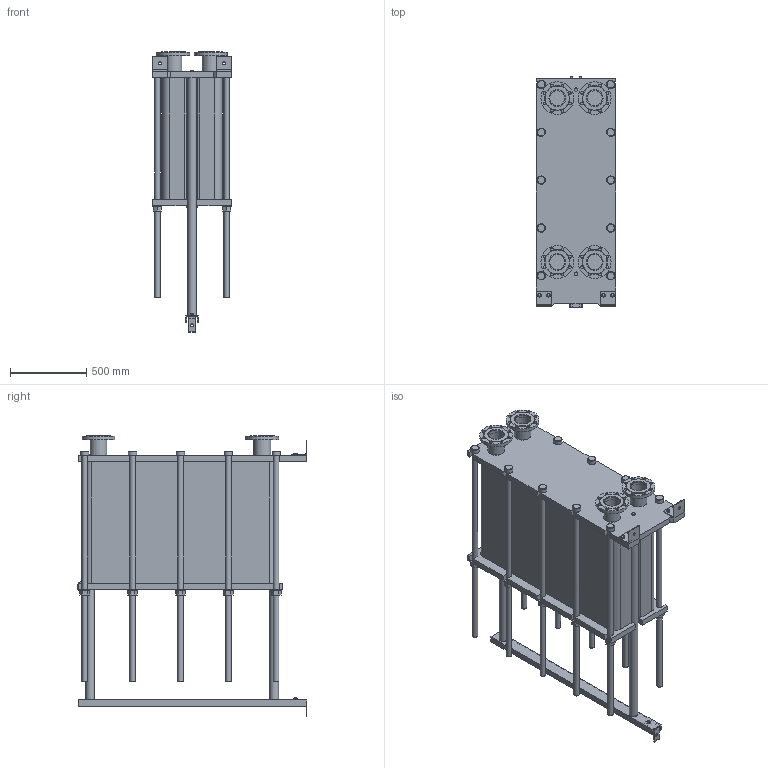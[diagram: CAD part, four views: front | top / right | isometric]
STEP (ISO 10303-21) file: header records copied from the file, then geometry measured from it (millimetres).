
FILE_DESCRIPTION(/* description */ (''),/* implementation_level */ '2;1');
FILE_NAME(/* name */ 'C:\Users\zhuro\Desktop\ENCO\TO\ЭН-04\ЭН-0,5-04-232-1.stp',/* time_stamp */ '2022-06-06T11:05:47+03:00',/* author */ ('zhuro'),/* organization */ (''),/* preprocessor_version */ 'ST-DEVELOPER v18.1',/* originating_system */ 'Autodesk Inventor 2022',/* authorisation */ '');
FILE_SCHEMA (('AUTOMOTIVE_DESIGN { 1 0 10303 214 3 1 1 }'));
Length unit declared in the file: millimetre
Products named in the file (1): ЭН-0,5-04-232-1
Bounding box: 520 x 1510 x 1841 mm (x, y, z)
Volume: 478316376 mm3; surface area: 11257954.4 mm2
Topology: 45 solids, 45 shells, 668 faces, 1611 edges, 1048 vertices
Faces by surface type: plane 457, cylinder 166, cone 39, torus 6
Full cylindrical faces by diameter (mm): 8 x4, 10 x2, 16 x8, 18 x35, 36 x25, 40 x2, 42 x1, 45 x4, 54 x10, 57 x2, 60 x10, 68 x2, 100 x4, 110 x8, 215 x4
Entity records: 23607 total; most frequent: CARTESIAN_POINT 7348, DIRECTION 3371, ORIENTED_EDGE 3142, EDGE_CURVE 1571, AXIS2_PLACEMENT_3D 1199, VERTEX_POINT 1044, LINE 973, VECTOR 973
